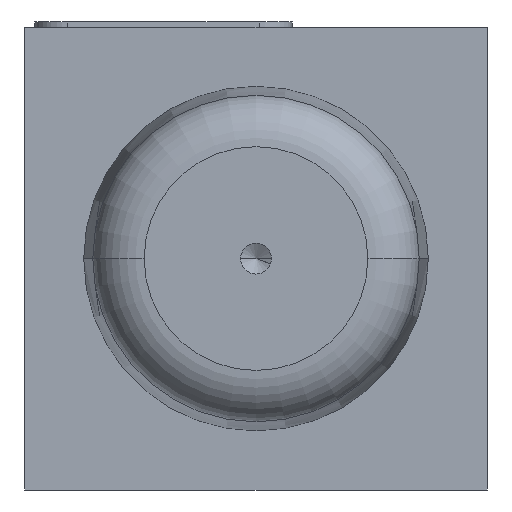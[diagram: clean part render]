
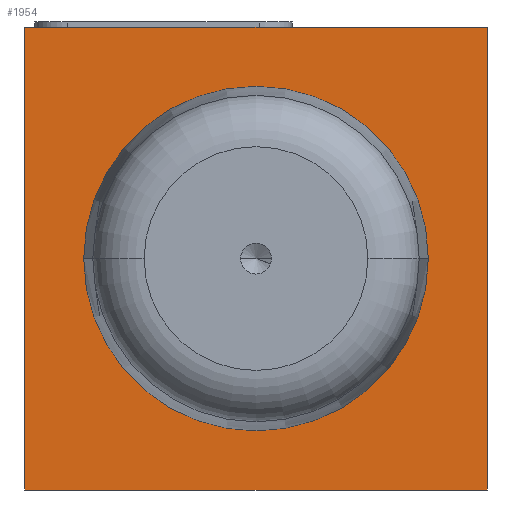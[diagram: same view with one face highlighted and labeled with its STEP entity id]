
A CAD part, left-side view. The second image highlights one B-rep face of the part: STEP entity #1954.
In plain terms, the highlighted planar face has unit normal (-1, 0, 0).
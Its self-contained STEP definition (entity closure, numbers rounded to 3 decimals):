
#61=DIRECTION('',(0.,-1.,0.));
#62=VECTOR('',#61,45.);
#63=CARTESIAN_POINT('',(-25.5,45.,-22.5));
#64=LINE('',#63,#62);
#68=DIRECTION('',(0.,0.,1.));
#69=VECTOR('',#68,45.);
#70=CARTESIAN_POINT('',(-25.5,0.,-22.5));
#71=LINE('',#70,#69);
#219=DIRECTION('',(0.,0.,1.));
#220=VECTOR('',#219,45.);
#221=CARTESIAN_POINT('',(-25.5,45.,-22.5));
#222=LINE('',#221,#220);
#226=CARTESIAN_POINT('',(-25.5,22.5,0.));
#227=DIRECTION('',(1.,0.,0.));
#228=DIRECTION('',(0.,-1.,0.));
#229=AXIS2_PLACEMENT_3D('',#226,#227,#228);
#234=CARTESIAN_POINT('',(-25.5,22.5,0.));
#235=DIRECTION('',(1.,0.,0.));
#236=DIRECTION('',(0.,1.,0.));
#237=AXIS2_PLACEMENT_3D('',#234,#235,#236);
#423=DIRECTION('',(0.,-1.,0.));
#424=VECTOR('',#423,45.);
#425=CARTESIAN_POINT('',(-25.5,45.,22.5));
#426=LINE('',#425,#424);
#1602=CARTESIAN_POINT('',(-25.5,0.,-22.5));
#1604=VERTEX_POINT('',#1602);
#1608=CARTESIAN_POINT('',(-25.5,45.,-22.5));
#1609=VERTEX_POINT('',#1608);
#1610=CARTESIAN_POINT('',(-25.5,0.,22.5));
#1612=VERTEX_POINT('',#1610);
#1616=CARTESIAN_POINT('',(-25.5,45.,22.5));
#1617=VERTEX_POINT('',#1616);
#1744=CARTESIAN_POINT('',(-25.5,7.5,0.));
#1745=VERTEX_POINT('',#1744);
#1746=CARTESIAN_POINT('',(-25.5,37.5,0.));
#1747=VERTEX_POINT('',#1746);
#1935=CARTESIAN_POINT('',(-25.5,45.,-22.5));
#1936=DIRECTION('',(-1.,0.,0.));
#1937=DIRECTION('',(0.,-1.,0.));
#1938=AXIS2_PLACEMENT_3D('',#1935,#1936,#1937);
#1939=PLANE('',#1938);
#1940=ORIENTED_EDGE('',*,*,#1861,.F.);
#1942=ORIENTED_EDGE('',*,*,#1941,.T.);
#1944=ORIENTED_EDGE('',*,*,#1943,.T.);
#1945=ORIENTED_EDGE('',*,*,#1872,.F.);
#1946=EDGE_LOOP('',(#1940,#1942,#1944,#1945));
#1947=FACE_OUTER_BOUND('',#1946,.F.);
#1949=ORIENTED_EDGE('',*,*,#1948,.F.);
#1951=ORIENTED_EDGE('',*,*,#1950,.F.);
#1952=EDGE_LOOP('',(#1949,#1951));
#1953=FACE_BOUND('',#1952,.F.);
#230=CIRCLE('',#229,15.);
#238=CIRCLE('',#237,15.);
#1861=EDGE_CURVE('',#1609,#1604,#64,.T.);
#1872=EDGE_CURVE('',#1604,#1612,#71,.T.);
#1941=EDGE_CURVE('',#1609,#1617,#222,.T.);
#1943=EDGE_CURVE('',#1617,#1612,#426,.T.);
#1948=EDGE_CURVE('',#1745,#1747,#230,.T.);
#1950=EDGE_CURVE('',#1747,#1745,#238,.T.);
#1954=ADVANCED_FACE('',(#1947,#1953),#1939,.T.);
